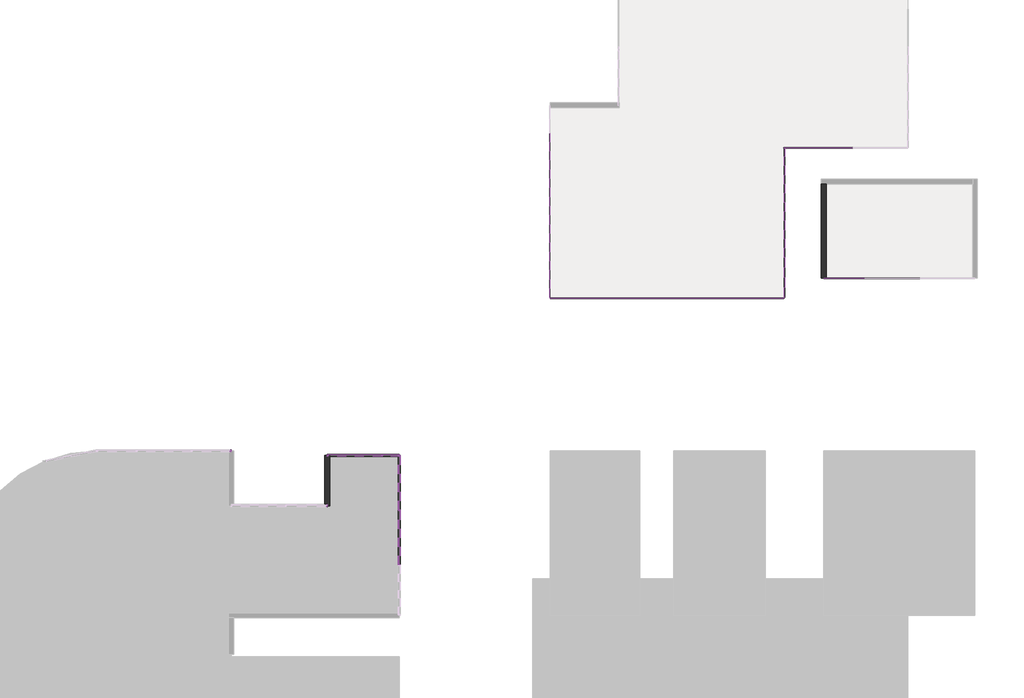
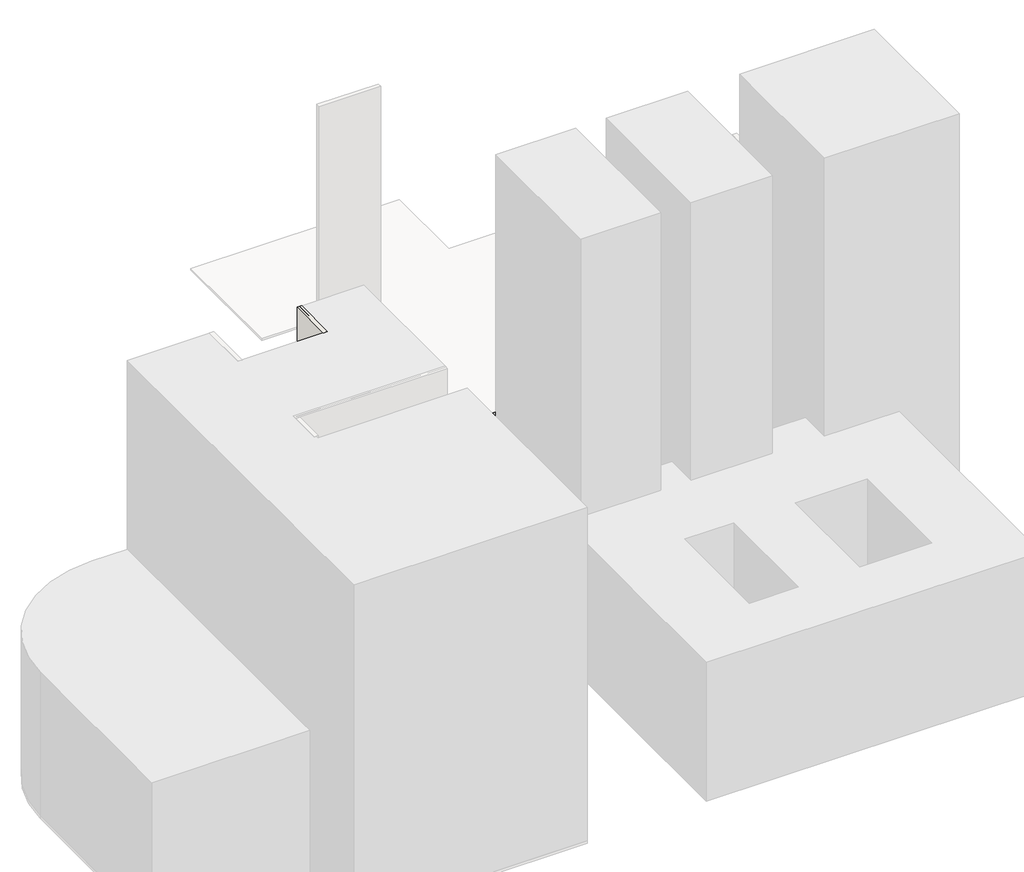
# One storey, part 4 of 5: 73 plates, 45 members, 2 walls.
"""IFC4 building model written with IfcOpenShell, lengths in millimetres."""

from ifc_helpers import new_model, si_unit, origin, origin_with_axes, place, context, project, spatial, polyline, outline, extrude, transform, mapped, element, save
from components import rectangular_mullion_50_x_150mm_d99dc9be, rectangular_mullion_50_x_150mm_402ab136, rectangular_mullion_50_x_150mm_6588f46c, rectangular_mullion_50_x_150mm_a037c29c, rectangular_mullion_50_x_150mm_c2546fd4, rectangular_mullion_50_x_150mm_5eb82d41, rectangular_mullion_50_x_150mm_1a85c1a0, rectangular_mullion_50_x_150mm_2fe63767, rectangular_mullion_50_x_150mm_4a524db7, system_panel_glazed_ecbc047f, system_panel_glazed_0d1816dc, system_panel_glazed_8e9402eb, system_panel_glazed_89ac83a7, system_panel_glazed_0c6ae723, system_panel_glazed_39d17f19, system_panel_glazed_d6eabcf1, system_panel_glazed_926b6355, system_panel_glazed_4df6a082, system_panel_glazed_7578c6fa

model = new_model("IFC4")

# Units and contexts
model_context = context("Model", 3, world=origin())
ifc_project = project(units=[si_unit("LENGTHUNIT", "METRE", prefix="MILLI")], contexts=[model_context])

# Site, building, storey
site = spatial("IfcSite", under=ifc_project)
building = spatial("IfcBuilding", under=site)
storey = spatial("IfcBuildingStorey", under=building, Name="Suteren", Elevation=0.0)

# Members
placement = place(None, origin())
rectangular_mullion_50_x_150mm_shape = rectangular_mullion_50_x_150mm_d99dc9be(model_context)
element("IfcMember", 1, ObjectType="Rectangular Mullion : 50 x 150mm", at=placement, inside=storey, context=model_context, shape_type="MappedRepresentation", body=[
    mapped(rectangular_mullion_50_x_150mm_shape, transform((13503.2660975, 4039.3555415, 4800.0), x_axis=(0.0, -1.0, 0.0), y_axis=(1.0, 0.0, 0.0), z_axis=(0.0, 0.0, 1.0))),
])
element("IfcMember", 2, ObjectType="Rectangular Mullion : 50 x 150mm", at=placement, inside=storey, context=model_context, shape_type="MappedRepresentation", body=[
    mapped(rectangular_mullion_50_x_150mm_shape, transform((13503.2660975, 4039.3555415, 3600.0), x_axis=(0.0, -1.0, 0.0), y_axis=(1.0, 0.0, 0.0), z_axis=(0.0, 0.0, 1.0))),
])
element("IfcMember", 3, ObjectType="Rectangular Mullion : 50 x 150mm", at=placement, inside=storey, context=model_context, shape_type="MappedRepresentation", body=[
    mapped(rectangular_mullion_50_x_150mm_shape, transform((13503.2660975, 4039.3555415, 2400.0), x_axis=(0.0, -1.0, 0.0), y_axis=(1.0, 0.0, 0.0), z_axis=(0.0, 0.0, 1.0))),
])
element("IfcMember", 4, ObjectType="Rectangular Mullion : 50 x 150mm", at=placement, inside=storey, context=model_context, shape_type="MappedRepresentation", body=[
    mapped(rectangular_mullion_50_x_150mm_shape, transform((12278.419219, 8039.3555415, 2400.0), x_axis=(1.0, 0.0, 0.0), y_axis=(0.0, 1.0, 0.0), z_axis=(0.0, 0.0, 1.0))),
])
element("IfcMember", 5, ObjectType="Rectangular Mullion : 50 x 150mm", at=placement, inside=storey, context=model_context, shape_type="MappedRepresentation", body=[
    mapped(rectangular_mullion_50_x_150mm_shape, transform((12278.419219, 8039.3555415, 3600.0), x_axis=(1.0, 0.0, 0.0), y_axis=(0.0, 1.0, 0.0), z_axis=(0.0, 0.0, 1.0))),
])
element("IfcMember", 6, ObjectType="Rectangular Mullion : 50 x 150mm", at=placement, inside=storey, context=model_context, shape_type="MappedRepresentation", body=[
    mapped(rectangular_mullion_50_x_150mm_shape, transform((12278.419219, 8039.3555415, 4800.0), x_axis=(1.0, 0.0, 0.0), y_axis=(0.0, 1.0, 0.0), z_axis=(0.0, 0.0, 1.0))),
])
element("IfcMember", 7, ObjectType="Rectangular Mullion : 50 x 150mm", at=placement, inside=storey, context=model_context, shape_type="MappedRepresentation", body=[
    mapped(rectangular_mullion_50_x_150mm_shape, transform((13503.2660975, 4039.3555415, 1200.0), x_axis=(0.0, -1.0, 0.0), y_axis=(1.0, 0.0, 0.0), z_axis=(0.0, 0.0, 1.0))),
])
element("IfcMember", 8, ObjectType="Rectangular Mullion : 50 x 150mm", at=placement, inside=storey, context=model_context, shape_type="MappedRepresentation", body=[
    mapped(rectangular_mullion_50_x_150mm_shape, transform((12278.419219, 8039.3555415, 1200.0), x_axis=(1.0, 0.0, 0.0), y_axis=(0.0, 1.0, 0.0), z_axis=(0.0, 0.0, 1.0))),
])
rectangular_mullion_50_x_150mm_2_shape = rectangular_mullion_50_x_150mm_402ab136(model_context)
element("IfcMember", 9, ObjectType="Rectangular Mullion : 50 x 150mm", at=placement, inside=storey, context=model_context, shape_type="MappedRepresentation", body=[
    mapped(rectangular_mullion_50_x_150mm_2_shape, transform((13503.2660975, 4064.3555415, 0.0), x_axis=(0.0, 0.0, -1.0), y_axis=(1.0, 0.0, 0.0), z_axis=(0.0, -1.0, 0.0))),
])
element("IfcMember", 10, ObjectType="Rectangular Mullion : 50 x 150mm", at=placement, inside=storey, context=model_context, shape_type="MappedRepresentation", body=[
    mapped(rectangular_mullion_50_x_150mm_2_shape, transform((12253.419219, 8039.3555415, 0.0), x_axis=(0.0, 0.0, -1.0), y_axis=(0.0, 1.0, 0.0), z_axis=(1.0, 0.0, 0.0))),
])
rectangular_mullion_50_x_150mm_3_shape = rectangular_mullion_50_x_150mm_6588f46c(model_context)
element("IfcMember", 11, ObjectType="Rectangular Mullion : 50 x 150mm", at=placement, inside=storey, context=model_context, shape_type="MappedRepresentation", body=[
    mapped(rectangular_mullion_50_x_150mm_3_shape, transform((1278.419219, 8375.9839566, 2400.0), x_axis=(1.0, 0.0, 0.0), y_axis=(0.0, 1.0, 0.0), z_axis=(0.0, 0.0, 1.0))),
])
element("IfcMember", 12, ObjectType="Rectangular Mullion : 50 x 150mm", at=placement, inside=storey, context=model_context, shape_type="MappedRepresentation", body=[
    mapped(rectangular_mullion_50_x_150mm_3_shape, transform((1278.419219, 8375.9839566, 3600.0), x_axis=(1.0, 0.0, 0.0), y_axis=(0.0, 1.0, 0.0), z_axis=(0.0, 0.0, 1.0))),
])
element("IfcMember", 13, ObjectType="Rectangular Mullion : 50 x 150mm", at=placement, inside=storey, context=model_context, shape_type="MappedRepresentation", body=[
    mapped(rectangular_mullion_50_x_150mm_3_shape, transform((1278.419219, 8375.9839566, 4800.0), x_axis=(1.0, 0.0, 0.0), y_axis=(0.0, 1.0, 0.0), z_axis=(0.0, 0.0, 1.0))),
])
element("IfcMember", 14, ObjectType="Rectangular Mullion : 50 x 150mm", at=placement, inside=storey, context=model_context, shape_type="MappedRepresentation", body=[
    mapped(rectangular_mullion_50_x_150mm_3_shape, transform((8278.419219, 4375.9839566, 2400.0), x_axis=(1.0, 0.0, 0.0), y_axis=(0.0, 1.0, 0.0), z_axis=(0.0, 0.0, 1.0))),
])
element("IfcMember", 15, ObjectType="Rectangular Mullion : 50 x 150mm", at=placement, inside=storey, context=model_context, shape_type="MappedRepresentation", body=[
    mapped(rectangular_mullion_50_x_150mm_3_shape, transform((8278.419219, 4375.9839566, 3600.0), x_axis=(1.0, 0.0, 0.0), y_axis=(0.0, 1.0, 0.0), z_axis=(0.0, 0.0, 1.0))),
])
element("IfcMember", 16, ObjectType="Rectangular Mullion : 50 x 150mm", at=placement, inside=storey, context=model_context, shape_type="MappedRepresentation", body=[
    mapped(rectangular_mullion_50_x_150mm_3_shape, transform((8278.419219, 4375.9839566, 4800.0), x_axis=(1.0, 0.0, 0.0), y_axis=(0.0, 1.0, 0.0), z_axis=(0.0, 0.0, 1.0))),
])
element("IfcMember", 17, ObjectType="Rectangular Mullion : 50 x 150mm", at=placement, inside=storey, context=model_context, shape_type="MappedRepresentation", body=[
    mapped(rectangular_mullion_50_x_150mm_3_shape, transform((13503.2660975, 8039.3555415, 2400.0), x_axis=(1.0, 0.0, 0.0), y_axis=(0.0, 1.0, 0.0), z_axis=(0.0, 0.0, 1.0))),
])
element("IfcMember", 18, ObjectType="Rectangular Mullion : 50 x 150mm", at=placement, inside=storey, context=model_context, shape_type="MappedRepresentation", body=[
    mapped(rectangular_mullion_50_x_150mm_3_shape, transform((13503.2660975, 8039.3555415, 3600.0), x_axis=(1.0, 0.0, 0.0), y_axis=(0.0, 1.0, 0.0), z_axis=(0.0, 0.0, 1.0))),
])
element("IfcMember", 19, ObjectType="Rectangular Mullion : 50 x 150mm", at=placement, inside=storey, context=model_context, shape_type="MappedRepresentation", body=[
    mapped(rectangular_mullion_50_x_150mm_3_shape, transform((13503.2660975, 8039.3555415, 4800.0), x_axis=(1.0, 0.0, 0.0), y_axis=(0.0, 1.0, 0.0), z_axis=(0.0, 0.0, 1.0))),
])
element("IfcMember", 20, ObjectType="Rectangular Mullion : 50 x 150mm", at=placement, inside=storey, context=model_context, shape_type="MappedRepresentation", body=[
    mapped(rectangular_mullion_50_x_150mm_3_shape, transform((1278.419219, 8375.9839566, 1200.0), x_axis=(1.0, 0.0, 0.0), y_axis=(0.0, 1.0, 0.0), z_axis=(0.0, 0.0, 1.0))),
])
element("IfcMember", 21, ObjectType="Rectangular Mullion : 50 x 150mm", at=placement, inside=storey, context=model_context, shape_type="MappedRepresentation", body=[
    mapped(rectangular_mullion_50_x_150mm_3_shape, transform((8278.419219, 4375.9839566, 1200.0), x_axis=(1.0, 0.0, 0.0), y_axis=(0.0, 1.0, 0.0), z_axis=(0.0, 0.0, 1.0))),
])
element("IfcMember", 22, ObjectType="Rectangular Mullion : 50 x 150mm", at=placement, inside=storey, context=model_context, shape_type="MappedRepresentation", body=[
    mapped(rectangular_mullion_50_x_150mm_3_shape, transform((13503.2660975, 8039.3555415, 1200.0), x_axis=(1.0, 0.0, 0.0), y_axis=(0.0, 1.0, 0.0), z_axis=(0.0, 0.0, 1.0))),
])
rectangular_mullion_50_x_150mm_4_shape = rectangular_mullion_50_x_150mm_a037c29c(model_context)
element("IfcMember", 23, ObjectType="Rectangular Mullion : 50 x 150mm", at=placement, inside=storey, context=model_context, shape_type="MappedRepresentation", body=[
    mapped(rectangular_mullion_50_x_150mm_4_shape, transform((13503.2660975, 4014.3555415, 3600.0), x_axis=(0.0, 0.0, 1.0), y_axis=(1.0, 0.0, 0.0), z_axis=(0.0, 1.0, 0.0))),
])
element("IfcMember", 24, ObjectType="Rectangular Mullion : 50 x 150mm", at=placement, inside=storey, context=model_context, shape_type="MappedRepresentation", body=[
    mapped(rectangular_mullion_50_x_150mm_4_shape, transform((13503.2660975, 4014.3555415, 2400.0), x_axis=(0.0, 0.0, 1.0), y_axis=(1.0, 0.0, 0.0), z_axis=(0.0, 1.0, 0.0))),
])
element("IfcMember", 25, ObjectType="Rectangular Mullion : 50 x 150mm", at=placement, inside=storey, context=model_context, shape_type="MappedRepresentation", body=[
    mapped(rectangular_mullion_50_x_150mm_4_shape, transform((13503.2660975, 4014.3555415, 1200.0), x_axis=(0.0, 0.0, 1.0), y_axis=(1.0, 0.0, 0.0), z_axis=(0.0, 1.0, 0.0))),
])
rectangular_mullion_50_x_150mm_5_shape = rectangular_mullion_50_x_150mm_c2546fd4(model_context)
element("IfcMember", 26, ObjectType="Rectangular Mullion : 50 x 150mm", at=placement, inside=storey, context=model_context, shape_type="MappedRepresentation", body=[
    mapped(rectangular_mullion_50_x_150mm_5_shape, transform((13503.2660975, 7989.3555415, 3600.0), x_axis=(0.0, 0.0, 1.0), y_axis=(1.0, 0.0, 0.0), z_axis=(0.0, 1.0, 0.0))),
])
element("IfcMember", 27, ObjectType="Rectangular Mullion : 50 x 150mm", at=placement, inside=storey, context=model_context, shape_type="MappedRepresentation", body=[
    mapped(rectangular_mullion_50_x_150mm_5_shape, transform((13503.2660975, 7989.3555415, 2400.0), x_axis=(0.0, 0.0, 1.0), y_axis=(1.0, 0.0, 0.0), z_axis=(0.0, 1.0, 0.0))),
])
element("IfcMember", 28, ObjectType="Rectangular Mullion : 50 x 150mm", at=placement, inside=storey, context=model_context, shape_type="MappedRepresentation", body=[
    mapped(rectangular_mullion_50_x_150mm_5_shape, transform((13503.2660975, 7989.3555415, 1200.0), x_axis=(0.0, 0.0, 1.0), y_axis=(1.0, 0.0, 0.0), z_axis=(0.0, 1.0, 0.0))),
])
element("IfcMember", 29, ObjectType="Rectangular Mullion : 50 x 150mm", at=placement, inside=storey, context=model_context, shape_type="MappedRepresentation", body=[
    mapped(rectangular_mullion_50_x_150mm_5_shape, transform((8328.419219, 8039.3555415, 1200.0), x_axis=(0.0, 0.0, 1.0), y_axis=(0.0, 1.0, 0.0), z_axis=(-1.0, 0.0, 0.0))),
])
element("IfcMember", 30, ObjectType="Rectangular Mullion : 50 x 150mm", at=placement, inside=storey, context=model_context, shape_type="MappedRepresentation", body=[
    mapped(rectangular_mullion_50_x_150mm_5_shape, transform((8328.419219, 8039.3555415, 2400.0), x_axis=(0.0, 0.0, 1.0), y_axis=(0.0, 1.0, 0.0), z_axis=(-1.0, 0.0, 0.0))),
])
element("IfcMember", 31, ObjectType="Rectangular Mullion : 50 x 150mm", at=placement, inside=storey, context=model_context, shape_type="MappedRepresentation", body=[
    mapped(rectangular_mullion_50_x_150mm_5_shape, transform((8328.419219, 8039.3555415, 3600.0), x_axis=(0.0, 0.0, 1.0), y_axis=(0.0, 1.0, 0.0), z_axis=(-1.0, 0.0, 0.0))),
])
element("IfcMember", 32, ObjectType="Rectangular Mullion : 50 x 150mm", at=placement, inside=storey, context=model_context, shape_type="MappedRepresentation", body=[
    mapped(rectangular_mullion_50_x_150mm_3_shape, transform((13503.2660975, 8039.3555415, 3600.0), x_axis=(0.0, 1.0, 0.0), y_axis=(1.0, 0.0, 0.0), z_axis=(0.0, 0.0, -1.0))),
])
element("IfcMember", 33, ObjectType="Rectangular Mullion : 50 x 150mm", at=placement, inside=storey, context=model_context, shape_type="MappedRepresentation", body=[
    mapped(rectangular_mullion_50_x_150mm_3_shape, transform((13503.2660975, 8039.3555415, 2400.0), x_axis=(0.0, 1.0, 0.0), y_axis=(1.0, 0.0, 0.0), z_axis=(0.0, 0.0, -1.0))),
])
element("IfcMember", 34, ObjectType="Rectangular Mullion : 50 x 150mm", at=placement, inside=storey, context=model_context, shape_type="MappedRepresentation", body=[
    mapped(rectangular_mullion_50_x_150mm_3_shape, transform((13503.2660975, 8039.3555415, 1200.0), x_axis=(0.0, 1.0, 0.0), y_axis=(1.0, 0.0, 0.0), z_axis=(0.0, 0.0, -1.0))),
])
element("IfcMember", 35, ObjectType="Rectangular Mullion : 50 x 150mm", at=placement, inside=storey, context=model_context, shape_type="MappedRepresentation", body=[
    mapped(rectangular_mullion_50_x_150mm_3_shape, transform((8278.419219, 8039.3555415, 1200.0), x_axis=(-1.0, 0.0, 0.0), y_axis=(0.0, 1.0, 0.0), z_axis=(0.0, 0.0, -1.0))),
])
element("IfcMember", 36, ObjectType="Rectangular Mullion : 50 x 150mm", at=placement, inside=storey, context=model_context, shape_type="MappedRepresentation", body=[
    mapped(rectangular_mullion_50_x_150mm_3_shape, transform((8278.419219, 8039.3555415, 2400.0), x_axis=(-1.0, 0.0, 0.0), y_axis=(0.0, 1.0, 0.0), z_axis=(0.0, 0.0, -1.0))),
])
element("IfcMember", 37, ObjectType="Rectangular Mullion : 50 x 150mm", at=placement, inside=storey, context=model_context, shape_type="MappedRepresentation", body=[
    mapped(rectangular_mullion_50_x_150mm_3_shape, transform((8278.419219, 8039.3555415, 3600.0), x_axis=(-1.0, 0.0, 0.0), y_axis=(0.0, 1.0, 0.0), z_axis=(0.0, 0.0, -1.0))),
])
element("IfcMember", 38, ObjectType="Rectangular Mullion : 50 x 150mm", at=placement, inside=storey, context=model_context, shape_type="MappedRepresentation", body=[
    mapped(rectangular_mullion_50_x_150mm_3_shape, transform((13503.2660975, 8039.3555415, 0.0), x_axis=(0.0, 1.0, 0.0), y_axis=(1.0, 0.0, 0.0), z_axis=(0.0, 0.0, -1.0))),
])
element("IfcMember", 39, ObjectType="Rectangular Mullion : 50 x 150mm", at=placement, inside=storey, context=model_context, shape_type="MappedRepresentation", body=[
    mapped(rectangular_mullion_50_x_150mm_3_shape, transform((8278.419219, 8039.3555415, 0.0), x_axis=(-1.0, 0.0, 0.0), y_axis=(0.0, 1.0, 0.0), z_axis=(0.0, 0.0, -1.0))),
])
rectangular_mullion_50_x_150mm_6_shape = rectangular_mullion_50_x_150mm_5eb82d41(model_context)
element("IfcMember", 40, ObjectType="Rectangular Mullion : 50 x 150mm", at=placement, inside=storey, context=model_context, shape_type="MappedRepresentation", body=[
    mapped(rectangular_mullion_50_x_150mm_6_shape, transform((1228.419219, 8375.9839566, 0.0), x_axis=(0.0, 0.0, -1.0), y_axis=(0.0, 1.0, 0.0), z_axis=(1.0, 0.0, 0.0))),
])
rectangular_mullion_50_x_150mm_7_shape = rectangular_mullion_50_x_150mm_1a85c1a0(model_context)
element("IfcMember", 41, ObjectType="Rectangular Mullion : 50 x 150mm", at=placement, inside=storey, context=model_context, shape_type="MappedRepresentation", body=[
    mapped(rectangular_mullion_50_x_150mm_7_shape, transform((8228.419219, 4375.9839566, 0.0), x_axis=(0.0, 0.0, -1.0), y_axis=(0.0, 1.0, 0.0), z_axis=(1.0, 0.0, 0.0))),
])
rectangular_mullion_50_x_150mm_8_shape = rectangular_mullion_50_x_150mm_2fe63767(model_context)
element("IfcMember", 42, ObjectType="Rectangular Mullion : 50 x 150mm", at=placement, inside=storey, context=model_context, shape_type="MappedRepresentation", body=[
    mapped(rectangular_mullion_50_x_150mm_8_shape, transform((12303.419219, 8039.3555415, 1200.0), x_axis=(0.0, 0.0, 1.0), y_axis=(0.0, 1.0, 0.0), z_axis=(-1.0, 0.0, 0.0))),
])
element("IfcMember", 43, ObjectType="Rectangular Mullion : 50 x 150mm", at=placement, inside=storey, context=model_context, shape_type="MappedRepresentation", body=[
    mapped(rectangular_mullion_50_x_150mm_8_shape, transform((12303.419219, 8039.3555415, 2400.0), x_axis=(0.0, 0.0, 1.0), y_axis=(0.0, 1.0, 0.0), z_axis=(-1.0, 0.0, 0.0))),
])
element("IfcMember", 44, ObjectType="Rectangular Mullion : 50 x 150mm", at=placement, inside=storey, context=model_context, shape_type="MappedRepresentation", body=[
    mapped(rectangular_mullion_50_x_150mm_8_shape, transform((12303.419219, 8039.3555415, 3600.0), x_axis=(0.0, 0.0, 1.0), y_axis=(0.0, 1.0, 0.0), z_axis=(-1.0, 0.0, 0.0))),
])
rectangular_mullion_50_x_150mm_9_shape = rectangular_mullion_50_x_150mm_4a524db7(model_context)
element("IfcMember", 45, ObjectType="Rectangular Mullion : 50 x 150mm", at=placement, inside=storey, context=model_context, shape_type="MappedRepresentation", body=[
    mapped(rectangular_mullion_50_x_150mm_9_shape, transform((13453.2660975, 8039.3555415, 0.0), x_axis=(0.0, 0.0, -1.0), y_axis=(0.0, 1.0, 0.0), z_axis=(1.0, 0.0, 0.0))),
])

# Plates
system_panel_glazed_shape = system_panel_glazed_ecbc047f(model_context)
element("IfcPlate", 46, ObjectType="System Panel : Glazed", at=placement, inside=storey, context=model_context, shape_type="MappedRepresentation", body=[
    mapped(system_panel_glazed_shape, transform((13503.2660975, 6026.8555415, 50.0), x_axis=(0.0, -1.0, 0.0), y_axis=(1.0, 0.0, 0.0), z_axis=(0.0, 0.0, 1.0))),
])
element("IfcPlate", 47, ObjectType="System Panel : Glazed", at=placement, inside=storey, context=model_context, shape_type="MappedRepresentation", body=[
    mapped(system_panel_glazed_shape, transform((10290.919219, 8039.3555415, 50.0), x_axis=(1.0, 0.0, 0.0), y_axis=(0.0, 1.0, 0.0), z_axis=(0.0, 0.0, 1.0))),
])
system_panel_glazed_2_shape = system_panel_glazed_0d1816dc(model_context)
element("IfcPlate", 48, ObjectType="System Panel : Glazed", at=placement, inside=storey, context=model_context, shape_type="MappedRepresentation", body=[
    mapped(system_panel_glazed_2_shape, transform((13503.2660975, 2039.3555415, 50.0), x_axis=(0.0, -1.0, 0.0), y_axis=(1.0, 0.0, 0.0), z_axis=(0.0, 0.0, 1.0))),
])
system_panel_glazed_3_shape = system_panel_glazed_8e9402eb(model_context)
element("IfcPlate", 49, ObjectType="System Panel : Glazed", at=placement, inside=storey, context=model_context, shape_type="MappedRepresentation", body=[
    mapped(system_panel_glazed_3_shape, transform((13503.2660975, 6026.8555415, 1225.0), x_axis=(0.0, -1.0, 0.0), y_axis=(1.0, 0.0, 0.0), z_axis=(0.0, 0.0, 1.0))),
])
element("IfcPlate", 50, ObjectType="System Panel : Glazed", at=placement, inside=storey, context=model_context, shape_type="MappedRepresentation", body=[
    mapped(system_panel_glazed_3_shape, transform((13503.2660975, 6026.8555415, 2425.0), x_axis=(0.0, -1.0, 0.0), y_axis=(1.0, 0.0, 0.0), z_axis=(0.0, 0.0, 1.0))),
])
element("IfcPlate", 51, ObjectType="System Panel : Glazed", at=placement, inside=storey, context=model_context, shape_type="MappedRepresentation", body=[
    mapped(system_panel_glazed_3_shape, transform((13503.2660975, 6026.8555415, 3625.0), x_axis=(0.0, -1.0, 0.0), y_axis=(1.0, 0.0, 0.0), z_axis=(0.0, 0.0, 1.0))),
])
element("IfcPlate", 52, ObjectType="System Panel : Glazed", at=placement, inside=storey, context=model_context, shape_type="MappedRepresentation", body=[
    mapped(system_panel_glazed_3_shape, transform((10290.919219, 8039.3555415, 1225.0), x_axis=(1.0, 0.0, 0.0), y_axis=(0.0, 1.0, 0.0), z_axis=(0.0, 0.0, 1.0))),
])
element("IfcPlate", 53, ObjectType="System Panel : Glazed", at=placement, inside=storey, context=model_context, shape_type="MappedRepresentation", body=[
    mapped(system_panel_glazed_3_shape, transform((10290.919219, 8039.3555415, 2425.0), x_axis=(1.0, 0.0, 0.0), y_axis=(0.0, 1.0, 0.0), z_axis=(0.0, 0.0, 1.0))),
])
element("IfcPlate", 54, ObjectType="System Panel : Glazed", at=placement, inside=storey, context=model_context, shape_type="MappedRepresentation", body=[
    mapped(system_panel_glazed_3_shape, transform((10290.919219, 8039.3555415, 3625.0), x_axis=(1.0, 0.0, 0.0), y_axis=(0.0, 1.0, 0.0), z_axis=(0.0, 0.0, 1.0))),
])
system_panel_glazed_4_shape = system_panel_glazed_89ac83a7(model_context)
element("IfcPlate", 55, ObjectType="System Panel : Glazed", at=placement, inside=storey, context=model_context, shape_type="MappedRepresentation", body=[
    mapped(system_panel_glazed_4_shape, transform((13503.2660975, 2039.3555415, 1225.0), x_axis=(0.0, -1.0, 0.0), y_axis=(1.0, 0.0, 0.0), z_axis=(0.0, 0.0, 1.0))),
])
element("IfcPlate", 56, ObjectType="System Panel : Glazed", at=placement, inside=storey, context=model_context, shape_type="MappedRepresentation", body=[
    mapped(system_panel_glazed_4_shape, transform((13503.2660975, 2039.3555415, 2425.0), x_axis=(0.0, -1.0, 0.0), y_axis=(1.0, 0.0, 0.0), z_axis=(0.0, 0.0, 1.0))),
])
element("IfcPlate", 57, ObjectType="System Panel : Glazed", at=placement, inside=storey, context=model_context, shape_type="MappedRepresentation", body=[
    mapped(system_panel_glazed_4_shape, transform((13503.2660975, 2039.3555415, 3625.0), x_axis=(0.0, -1.0, 0.0), y_axis=(1.0, 0.0, 0.0), z_axis=(0.0, 0.0, 1.0))),
])
system_panel_glazed_5_shape = system_panel_glazed_0c6ae723(model_context)
element("IfcPlate", 58, ObjectType="System Panel : Glazed", at=placement, inside=storey, context=model_context, shape_type="MappedRepresentation", body=[
    mapped(system_panel_glazed_5_shape, transform((12878.3426582, 8039.3555415, 50.0), x_axis=(1.0, 0.0, 0.0), y_axis=(0.0, 1.0, 0.0), z_axis=(0.0, 0.0, 1.0))),
])
system_panel_glazed_6_shape = system_panel_glazed_39d17f19(model_context)
element("IfcPlate", 59, ObjectType="System Panel : Glazed", at=placement, inside=storey, context=model_context, shape_type="MappedRepresentation", body=[
    mapped(system_panel_glazed_6_shape, transform((12878.3426582, 8039.3555415, 1225.0), x_axis=(1.0, 0.0, 0.0), y_axis=(0.0, 1.0, 0.0), z_axis=(0.0, 0.0, 1.0))),
])
element("IfcPlate", 60, ObjectType="System Panel : Glazed", at=placement, inside=storey, context=model_context, shape_type="MappedRepresentation", body=[
    mapped(system_panel_glazed_6_shape, transform((12878.3426582, 8039.3555415, 2425.0), x_axis=(1.0, 0.0, 0.0), y_axis=(0.0, 1.0, 0.0), z_axis=(0.0, 0.0, 1.0))),
])
element("IfcPlate", 61, ObjectType="System Panel : Glazed", at=placement, inside=storey, context=model_context, shape_type="MappedRepresentation", body=[
    mapped(system_panel_glazed_6_shape, transform((12878.3426582, 8039.3555415, 3625.0), x_axis=(1.0, 0.0, 0.0), y_axis=(0.0, 1.0, 0.0), z_axis=(0.0, 0.0, 1.0))),
])
system_panel_glazed_7_shape = system_panel_glazed_d6eabcf1(model_context)
element("IfcPlate", 62, ObjectType="System Panel : Glazed", at=placement, inside=storey, context=model_context, shape_type="MappedRepresentation", body=[
    mapped(system_panel_glazed_7_shape, transform((39503.2660975, 19519.7749227, 0.0), x_axis=(-1.0, 0.0, 0.0), y_axis=(0.0, -1.0, 0.0), z_axis=(0.0, 0.0, 1.0))),
])
element("IfcPlate", 63, ObjectType="System Panel : Glazed", at=placement, inside=storey, context=model_context, shape_type="MappedRepresentation", body=[
    mapped(system_panel_glazed_7_shape, transform((24503.2660975, 21519.7749227, 0.0), x_axis=(0.0, 1.0, 0.0), y_axis=(-1.0, 0.0, 0.0), z_axis=(0.0, 0.0, 1.0))),
])
element("IfcPlate", 64, ObjectType="System Panel : Glazed", at=placement, inside=storey, context=model_context, shape_type="MappedRepresentation", body=[
    mapped(system_panel_glazed_7_shape, transform((35503.2660975, 19519.7749227, 0.0), x_axis=(-1.0, 0.0, 0.0), y_axis=(0.0, -1.0, 0.0), z_axis=(0.0, 0.0, 1.0))),
])
element("IfcPlate", 65, ObjectType="System Panel : Glazed", at=placement, inside=storey, context=model_context, shape_type="MappedRepresentation", body=[
    mapped(system_panel_glazed_7_shape, transform((31503.2660975, 19519.7749227, 0.0), x_axis=(-1.0, 0.0, 0.0), y_axis=(0.0, -1.0, 0.0), z_axis=(0.0, 0.0, 1.0))),
])
element("IfcPlate", 66, ObjectType="System Panel : Glazed", at=placement, inside=storey, context=model_context, shape_type="MappedRepresentation", body=[
    mapped(system_panel_glazed_7_shape, transform((27503.2660975, 19519.7749227, 0.0), x_axis=(-1.0, 0.0, 0.0), y_axis=(0.0, -1.0, 0.0), z_axis=(0.0, 0.0, 1.0))),
])
element("IfcPlate", 67, ObjectType="System Panel : Glazed", at=placement, inside=storey, context=model_context, shape_type="MappedRepresentation", body=[
    mapped(system_panel_glazed_7_shape, transform((39503.2660975, 19519.7749227, 1200.0), x_axis=(-1.0, 0.0, 0.0), y_axis=(0.0, -1.0, 0.0), z_axis=(0.0, 0.0, 1.0))),
])
element("IfcPlate", 68, ObjectType="System Panel : Glazed", at=placement, inside=storey, context=model_context, shape_type="MappedRepresentation", body=[
    mapped(system_panel_glazed_7_shape, transform((35503.2660975, 19519.7749227, 1200.0), x_axis=(-1.0, 0.0, 0.0), y_axis=(0.0, -1.0, 0.0), z_axis=(0.0, 0.0, 1.0))),
])
element("IfcPlate", 69, ObjectType="System Panel : Glazed", at=placement, inside=storey, context=model_context, shape_type="MappedRepresentation", body=[
    mapped(system_panel_glazed_7_shape, transform((31503.2660975, 19519.7749227, 1200.0), x_axis=(-1.0, 0.0, 0.0), y_axis=(0.0, -1.0, 0.0), z_axis=(0.0, 0.0, 1.0))),
])
element("IfcPlate", 70, ObjectType="System Panel : Glazed", at=placement, inside=storey, context=model_context, shape_type="MappedRepresentation", body=[
    mapped(system_panel_glazed_7_shape, transform((27503.2660975, 19519.7749227, 1200.0), x_axis=(-1.0, 0.0, 0.0), y_axis=(0.0, -1.0, 0.0), z_axis=(0.0, 0.0, 1.0))),
])
element("IfcPlate", 71, ObjectType="System Panel : Glazed", at=placement, inside=storey, context=model_context, shape_type="MappedRepresentation", body=[
    mapped(system_panel_glazed_7_shape, transform((39503.2660975, 19519.7749227, 2400.0), x_axis=(-1.0, 0.0, 0.0), y_axis=(0.0, -1.0, 0.0), z_axis=(0.0, 0.0, 1.0))),
])
element("IfcPlate", 72, ObjectType="System Panel : Glazed", at=placement, inside=storey, context=model_context, shape_type="MappedRepresentation", body=[
    mapped(system_panel_glazed_7_shape, transform((35503.2660975, 19519.7749227, 2400.0), x_axis=(-1.0, 0.0, 0.0), y_axis=(0.0, -1.0, 0.0), z_axis=(0.0, 0.0, 1.0))),
])
element("IfcPlate", 73, ObjectType="System Panel : Glazed", at=placement, inside=storey, context=model_context, shape_type="MappedRepresentation", body=[
    mapped(system_panel_glazed_7_shape, transform((31503.2660975, 19519.7749227, 2400.0), x_axis=(-1.0, 0.0, 0.0), y_axis=(0.0, -1.0, 0.0), z_axis=(0.0, 0.0, 1.0))),
])
element("IfcPlate", 74, ObjectType="System Panel : Glazed", at=placement, inside=storey, context=model_context, shape_type="MappedRepresentation", body=[
    mapped(system_panel_glazed_7_shape, transform((27503.2660975, 19519.7749227, 2400.0), x_axis=(-1.0, 0.0, 0.0), y_axis=(0.0, -1.0, 0.0), z_axis=(0.0, 0.0, 1.0))),
])
element("IfcPlate", 75, ObjectType="System Panel : Glazed", at=placement, inside=storey, context=model_context, shape_type="MappedRepresentation", body=[
    mapped(system_panel_glazed_7_shape, transform((39503.2660975, 19519.7749227, 3600.0), x_axis=(-1.0, 0.0, 0.0), y_axis=(0.0, -1.0, 0.0), z_axis=(0.0, 0.0, 1.0))),
])
element("IfcPlate", 76, ObjectType="System Panel : Glazed", at=placement, inside=storey, context=model_context, shape_type="MappedRepresentation", body=[
    mapped(system_panel_glazed_7_shape, transform((35503.2660975, 19519.7749227, 3600.0), x_axis=(-1.0, 0.0, 0.0), y_axis=(0.0, -1.0, 0.0), z_axis=(0.0, 0.0, 1.0))),
])
element("IfcPlate", 77, ObjectType="System Panel : Glazed", at=placement, inside=storey, context=model_context, shape_type="MappedRepresentation", body=[
    mapped(system_panel_glazed_7_shape, transform((31503.2660975, 19519.7749227, 3600.0), x_axis=(-1.0, 0.0, 0.0), y_axis=(0.0, -1.0, 0.0), z_axis=(0.0, 0.0, 1.0))),
])
element("IfcPlate", 78, ObjectType="System Panel : Glazed", at=placement, inside=storey, context=model_context, shape_type="MappedRepresentation", body=[
    mapped(system_panel_glazed_7_shape, transform((27503.2660975, 19519.7749227, 3600.0), x_axis=(-1.0, 0.0, 0.0), y_axis=(0.0, -1.0, 0.0), z_axis=(0.0, 0.0, 1.0))),
])
element("IfcPlate", 79, ObjectType="System Panel : Glazed", at=placement, inside=storey, context=model_context, shape_type="MappedRepresentation", body=[
    mapped(system_panel_glazed_7_shape, transform((24503.2660975, 25519.7749227, 0.0), x_axis=(0.0, 1.0, 0.0), y_axis=(-1.0, 0.0, 0.0), z_axis=(0.0, 0.0, 1.0))),
])
element("IfcPlate", 80, ObjectType="System Panel : Glazed", at=placement, inside=storey, context=model_context, shape_type="MappedRepresentation", body=[
    mapped(system_panel_glazed_7_shape, transform((24503.2660975, 29519.7749227, 0.0), x_axis=(0.0, 1.0, 0.0), y_axis=(-1.0, 0.0, 0.0), z_axis=(0.0, 0.0, 1.0))),
])
element("IfcPlate", 81, ObjectType="System Panel : Glazed", at=placement, inside=storey, context=model_context, shape_type="MappedRepresentation", body=[
    mapped(system_panel_glazed_7_shape, transform((24503.2660975, 21519.7749227, 1200.0), x_axis=(0.0, 1.0, 0.0), y_axis=(-1.0, 0.0, 0.0), z_axis=(0.0, 0.0, 1.0))),
])
element("IfcPlate", 82, ObjectType="System Panel : Glazed", at=placement, inside=storey, context=model_context, shape_type="MappedRepresentation", body=[
    mapped(system_panel_glazed_7_shape, transform((24503.2660975, 25519.7749227, 1200.0), x_axis=(0.0, 1.0, 0.0), y_axis=(-1.0, 0.0, 0.0), z_axis=(0.0, 0.0, 1.0))),
])
element("IfcPlate", 83, ObjectType="System Panel : Glazed", at=placement, inside=storey, context=model_context, shape_type="MappedRepresentation", body=[
    mapped(system_panel_glazed_7_shape, transform((24503.2660975, 29519.7749227, 1200.0), x_axis=(0.0, 1.0, 0.0), y_axis=(-1.0, 0.0, 0.0), z_axis=(0.0, 0.0, 1.0))),
])
element("IfcPlate", 84, ObjectType="System Panel : Glazed", at=placement, inside=storey, context=model_context, shape_type="MappedRepresentation", body=[
    mapped(system_panel_glazed_7_shape, transform((24503.2660975, 21519.7749227, 2400.0), x_axis=(0.0, 1.0, 0.0), y_axis=(-1.0, 0.0, 0.0), z_axis=(0.0, 0.0, 1.0))),
])
element("IfcPlate", 85, ObjectType="System Panel : Glazed", at=placement, inside=storey, context=model_context, shape_type="MappedRepresentation", body=[
    mapped(system_panel_glazed_7_shape, transform((24503.2660975, 25519.7749227, 2400.0), x_axis=(0.0, 1.0, 0.0), y_axis=(-1.0, 0.0, 0.0), z_axis=(0.0, 0.0, 1.0))),
])
element("IfcPlate", 86, ObjectType="System Panel : Glazed", at=placement, inside=storey, context=model_context, shape_type="MappedRepresentation", body=[
    mapped(system_panel_glazed_7_shape, transform((24503.2660975, 29519.7749227, 2400.0), x_axis=(0.0, 1.0, 0.0), y_axis=(-1.0, 0.0, 0.0), z_axis=(0.0, 0.0, 1.0))),
])
element("IfcPlate", 87, ObjectType="System Panel : Glazed", at=placement, inside=storey, context=model_context, shape_type="MappedRepresentation", body=[
    mapped(system_panel_glazed_7_shape, transform((24503.2660975, 21519.7749227, 3600.0), x_axis=(0.0, 1.0, 0.0), y_axis=(-1.0, 0.0, 0.0), z_axis=(0.0, 0.0, 1.0))),
])
element("IfcPlate", 88, ObjectType="System Panel : Glazed", at=placement, inside=storey, context=model_context, shape_type="MappedRepresentation", body=[
    mapped(system_panel_glazed_7_shape, transform((24503.2660975, 25519.7749227, 3600.0), x_axis=(0.0, 1.0, 0.0), y_axis=(-1.0, 0.0, 0.0), z_axis=(0.0, 0.0, 1.0))),
])
element("IfcPlate", 89, ObjectType="System Panel : Glazed", at=placement, inside=storey, context=model_context, shape_type="MappedRepresentation", body=[
    mapped(system_panel_glazed_7_shape, transform((24503.2660975, 29519.7749227, 3600.0), x_axis=(0.0, 1.0, 0.0), y_axis=(-1.0, 0.0, 0.0), z_axis=(0.0, 0.0, 1.0))),
])
element("IfcPlate", 90, ObjectType="System Panel : Glazed", at=placement, inside=storey, context=model_context, shape_type="MappedRepresentation", body=[
    mapped(system_panel_glazed_7_shape, transform((44503.2660975, 30457.4517739, 0.0), x_axis=(-1.0, 0.0, 0.0), y_axis=(0.0, -1.0, 0.0), z_axis=(0.0, 0.0, 1.0))),
])
element("IfcPlate", 91, ObjectType="System Panel : Glazed", at=placement, inside=storey, context=model_context, shape_type="MappedRepresentation", body=[
    mapped(system_panel_glazed_7_shape, transform((44503.2660975, 30457.4517739, 1200.0), x_axis=(-1.0, 0.0, 0.0), y_axis=(0.0, -1.0, 0.0), z_axis=(0.0, 0.0, 1.0))),
])
element("IfcPlate", 92, ObjectType="System Panel : Glazed", at=placement, inside=storey, context=model_context, shape_type="MappedRepresentation", body=[
    mapped(system_panel_glazed_7_shape, transform((44503.2660975, 30457.4517739, 2400.0), x_axis=(-1.0, 0.0, 0.0), y_axis=(0.0, -1.0, 0.0), z_axis=(0.0, 0.0, 1.0))),
])
element("IfcPlate", 93, ObjectType="System Panel : Glazed", at=placement, inside=storey, context=model_context, shape_type="MappedRepresentation", body=[
    mapped(system_panel_glazed_7_shape, transform((44503.2660975, 30457.4517739, 3600.0), x_axis=(-1.0, 0.0, 0.0), y_axis=(0.0, -1.0, 0.0), z_axis=(0.0, 0.0, 1.0))),
])
element("IfcPlate", 94, ObjectType="System Panel : Glazed", at=placement, inside=storey, context=model_context, shape_type="MappedRepresentation", body=[
    mapped(system_panel_glazed_7_shape, transform((49401.4778879, 20957.9625489, 0.0), x_axis=(-1.0, 0.0, 0.0), y_axis=(0.0, -1.0, 0.0), z_axis=(0.0, 0.0, 1.0))),
])
element("IfcPlate", 95, ObjectType="System Panel : Glazed", at=placement, inside=storey, context=model_context, shape_type="MappedRepresentation", body=[
    mapped(system_panel_glazed_7_shape, transform((41503.2660975, 28457.4517739, 0.0), x_axis=(0.0, -1.0, 0.0), y_axis=(1.0, 0.0, 0.0), z_axis=(0.0, 0.0, 1.0))),
])
element("IfcPlate", 96, ObjectType="System Panel : Glazed", at=placement, inside=storey, context=model_context, shape_type="MappedRepresentation", body=[
    mapped(system_panel_glazed_7_shape, transform((41503.2660975, 24457.4517739, 0.0), x_axis=(0.0, -1.0, 0.0), y_axis=(1.0, 0.0, 0.0), z_axis=(0.0, 0.0, 1.0))),
])
element("IfcPlate", 97, ObjectType="System Panel : Glazed", at=placement, inside=storey, context=model_context, shape_type="MappedRepresentation", body=[
    mapped(system_panel_glazed_7_shape, transform((41503.2660975, 28457.4517739, 1200.0), x_axis=(0.0, -1.0, 0.0), y_axis=(1.0, 0.0, 0.0), z_axis=(0.0, 0.0, 1.0))),
])
element("IfcPlate", 98, ObjectType="System Panel : Glazed", at=placement, inside=storey, context=model_context, shape_type="MappedRepresentation", body=[
    mapped(system_panel_glazed_7_shape, transform((41503.2660975, 24457.4517739, 1200.0), x_axis=(0.0, -1.0, 0.0), y_axis=(1.0, 0.0, 0.0), z_axis=(0.0, 0.0, 1.0))),
])
element("IfcPlate", 99, ObjectType="System Panel : Glazed", at=placement, inside=storey, context=model_context, shape_type="MappedRepresentation", body=[
    mapped(system_panel_glazed_7_shape, transform((41503.2660975, 28457.4517739, 2400.0), x_axis=(0.0, -1.0, 0.0), y_axis=(1.0, 0.0, 0.0), z_axis=(0.0, 0.0, 1.0))),
])
element("IfcPlate", 100, ObjectType="System Panel : Glazed", at=placement, inside=storey, context=model_context, shape_type="MappedRepresentation", body=[
    mapped(system_panel_glazed_7_shape, transform((41503.2660975, 24457.4517739, 2400.0), x_axis=(0.0, -1.0, 0.0), y_axis=(1.0, 0.0, 0.0), z_axis=(0.0, 0.0, 1.0))),
])
element("IfcPlate", 101, ObjectType="System Panel : Glazed", at=placement, inside=storey, context=model_context, shape_type="MappedRepresentation", body=[
    mapped(system_panel_glazed_7_shape, transform((41503.2660975, 28457.4517739, 3600.0), x_axis=(0.0, -1.0, 0.0), y_axis=(1.0, 0.0, 0.0), z_axis=(0.0, 0.0, 1.0))),
])
element("IfcPlate", 102, ObjectType="System Panel : Glazed", at=placement, inside=storey, context=model_context, shape_type="MappedRepresentation", body=[
    mapped(system_panel_glazed_7_shape, transform((41503.2660975, 24457.4517739, 3600.0), x_axis=(0.0, -1.0, 0.0), y_axis=(1.0, 0.0, 0.0), z_axis=(0.0, 0.0, 1.0))),
])
system_panel_glazed_8_shape = system_panel_glazed_926b6355(model_context)
element("IfcPlate", 103, ObjectType="System Panel : Glazed", at=placement, inside=storey, context=model_context, shape_type="MappedRepresentation", body=[
    mapped(system_panel_glazed_8_shape, transform((25003.2660975, 19519.7749227, 0.0), x_axis=(-1.0, 0.0, 0.0), y_axis=(0.0, -1.0, 0.0), z_axis=(0.0, 0.0, 1.0))),
])
element("IfcPlate", 104, ObjectType="System Panel : Glazed", at=placement, inside=storey, context=model_context, shape_type="MappedRepresentation", body=[
    mapped(system_panel_glazed_8_shape, transform((25003.2660975, 19519.7749227, 1200.0), x_axis=(-1.0, 0.0, 0.0), y_axis=(0.0, -1.0, 0.0), z_axis=(0.0, 0.0, 1.0))),
])
element("IfcPlate", 105, ObjectType="System Panel : Glazed", at=placement, inside=storey, context=model_context, shape_type="MappedRepresentation", body=[
    mapped(system_panel_glazed_8_shape, transform((25003.2660975, 19519.7749227, 2400.0), x_axis=(-1.0, 0.0, 0.0), y_axis=(0.0, -1.0, 0.0), z_axis=(0.0, 0.0, 1.0))),
])
element("IfcPlate", 106, ObjectType="System Panel : Glazed", at=placement, inside=storey, context=model_context, shape_type="MappedRepresentation", body=[
    mapped(system_panel_glazed_8_shape, transform((25003.2660975, 19519.7749227, 3600.0), x_axis=(-1.0, 0.0, 0.0), y_axis=(0.0, -1.0, 0.0), z_axis=(0.0, 0.0, 1.0))),
])
element("IfcPlate", 107, ObjectType="System Panel : Glazed", at=placement, inside=storey, context=model_context, shape_type="MappedRepresentation", body=[
    mapped(system_panel_glazed_8_shape, transform((42003.2660975, 30457.4517739, 0.0), x_axis=(-1.0, 0.0, 0.0), y_axis=(0.0, -1.0, 0.0), z_axis=(0.0, 0.0, 1.0))),
])
element("IfcPlate", 108, ObjectType="System Panel : Glazed", at=placement, inside=storey, context=model_context, shape_type="MappedRepresentation", body=[
    mapped(system_panel_glazed_8_shape, transform((42003.2660975, 30457.4517739, 1200.0), x_axis=(-1.0, 0.0, 0.0), y_axis=(0.0, -1.0, 0.0), z_axis=(0.0, 0.0, 1.0))),
])
element("IfcPlate", 109, ObjectType="System Panel : Glazed", at=placement, inside=storey, context=model_context, shape_type="MappedRepresentation", body=[
    mapped(system_panel_glazed_8_shape, transform((42003.2660975, 30457.4517739, 2400.0), x_axis=(-1.0, 0.0, 0.0), y_axis=(0.0, -1.0, 0.0), z_axis=(0.0, 0.0, 1.0))),
])
element("IfcPlate", 110, ObjectType="System Panel : Glazed", at=placement, inside=storey, context=model_context, shape_type="MappedRepresentation", body=[
    mapped(system_panel_glazed_8_shape, transform((42003.2660975, 30457.4517739, 3600.0), x_axis=(-1.0, 0.0, 0.0), y_axis=(0.0, -1.0, 0.0), z_axis=(0.0, 0.0, 1.0))),
])
system_panel_glazed_9_shape = system_panel_glazed_4df6a082(model_context)
element("IfcPlate", 111, ObjectType="System Panel : Glazed", at=placement, inside=storey, context=model_context, shape_type="MappedRepresentation", body=[
    mapped(system_panel_glazed_9_shape, transform((45901.4778879, 20957.9625489, 0.0), x_axis=(-1.0, 0.0, 0.0), y_axis=(0.0, -1.0, 0.0), z_axis=(0.0, 0.0, 1.0))),
])
element("IfcPlate", 112, ObjectType="System Panel : Glazed", at=placement, inside=storey, context=model_context, shape_type="MappedRepresentation", body=[
    mapped(system_panel_glazed_9_shape, transform((45901.4778879, 20957.9625489, 1200.0), x_axis=(-1.0, 0.0, 0.0), y_axis=(0.0, -1.0, 0.0), z_axis=(0.0, 0.0, 1.0))),
])
element("IfcPlate", 113, ObjectType="System Panel : Glazed", at=placement, inside=storey, context=model_context, shape_type="MappedRepresentation", body=[
    mapped(system_panel_glazed_9_shape, transform((45901.4778879, 20957.9625489, 2400.0), x_axis=(-1.0, 0.0, 0.0), y_axis=(0.0, -1.0, 0.0), z_axis=(0.0, 0.0, 1.0))),
])
element("IfcPlate", 114, ObjectType="System Panel : Glazed", at=placement, inside=storey, context=model_context, shape_type="MappedRepresentation", body=[
    mapped(system_panel_glazed_9_shape, transform((45901.4778879, 20957.9625489, 3600.0), x_axis=(-1.0, 0.0, 0.0), y_axis=(0.0, -1.0, 0.0), z_axis=(0.0, 0.0, 1.0))),
])
system_panel_glazed_10_shape = system_panel_glazed_7578c6fa(model_context)
element("IfcPlate", 115, ObjectType="System Panel : Glazed", at=placement, inside=storey, context=model_context, shape_type="MappedRepresentation", body=[
    mapped(system_panel_glazed_10_shape, transform((41503.2660975, 20988.6133483, 0.0), x_axis=(0.0, -1.0, 0.0), y_axis=(1.0, 0.0, 0.0), z_axis=(0.0, 0.0, 1.0))),
])
element("IfcPlate", 116, ObjectType="System Panel : Glazed", at=placement, inside=storey, context=model_context, shape_type="MappedRepresentation", body=[
    mapped(system_panel_glazed_10_shape, transform((41503.2660975, 20988.6133483, 1200.0), x_axis=(0.0, -1.0, 0.0), y_axis=(1.0, 0.0, 0.0), z_axis=(0.0, 0.0, 1.0))),
])
element("IfcPlate", 117, ObjectType="System Panel : Glazed", at=placement, inside=storey, context=model_context, shape_type="MappedRepresentation", body=[
    mapped(system_panel_glazed_10_shape, transform((41503.2660975, 20988.6133483, 2400.0), x_axis=(0.0, -1.0, 0.0), y_axis=(1.0, 0.0, 0.0), z_axis=(0.0, 0.0, 1.0))),
])
element("IfcPlate", 118, ObjectType="System Panel : Glazed", at=placement, inside=storey, context=model_context, shape_type="MappedRepresentation", body=[
    mapped(system_panel_glazed_10_shape, transform((41503.2660975, 20988.6133483, 3600.0), x_axis=(0.0, -1.0, 0.0), y_axis=(1.0, 0.0, 0.0), z_axis=(0.0, 0.0, 1.0))),
])

# Walls
element("IfcWall", 119, ObjectType="Exterior - Brick on Mtl. Stud", at=placement, inside=storey, context=model_context, shape_type="SweptSolid", body=[
    extrude(outline(polyline([(8093.419219, 4375.9839566), (8093.419219, 8039.3555415), (8443.419219, 8039.3555415), (8443.419219, 4375.9839566), (8093.419219, 4375.9839566)])), origin_with_axes(), (0.0, 0.0, 1.0), 28773.2453384),
])
element("IfcWall", 120, ObjectType="Exterior - Brick on Mtl. Stud", at=placement, inside=storey, context=model_context, shape_type="SweptSolid", body=[
    extrude(outline(polyline([(44216.4778879, 20957.9625489), (44216.4778879, 27792.9625489), (44566.4778879, 27792.9625489), (44566.4778879, 20957.9625489), (44216.4778879, 20957.9625489)])), origin_with_axes(), (0.0, 0.0, 1.0), 15000.0),
])

save(model, "model.ifc")
